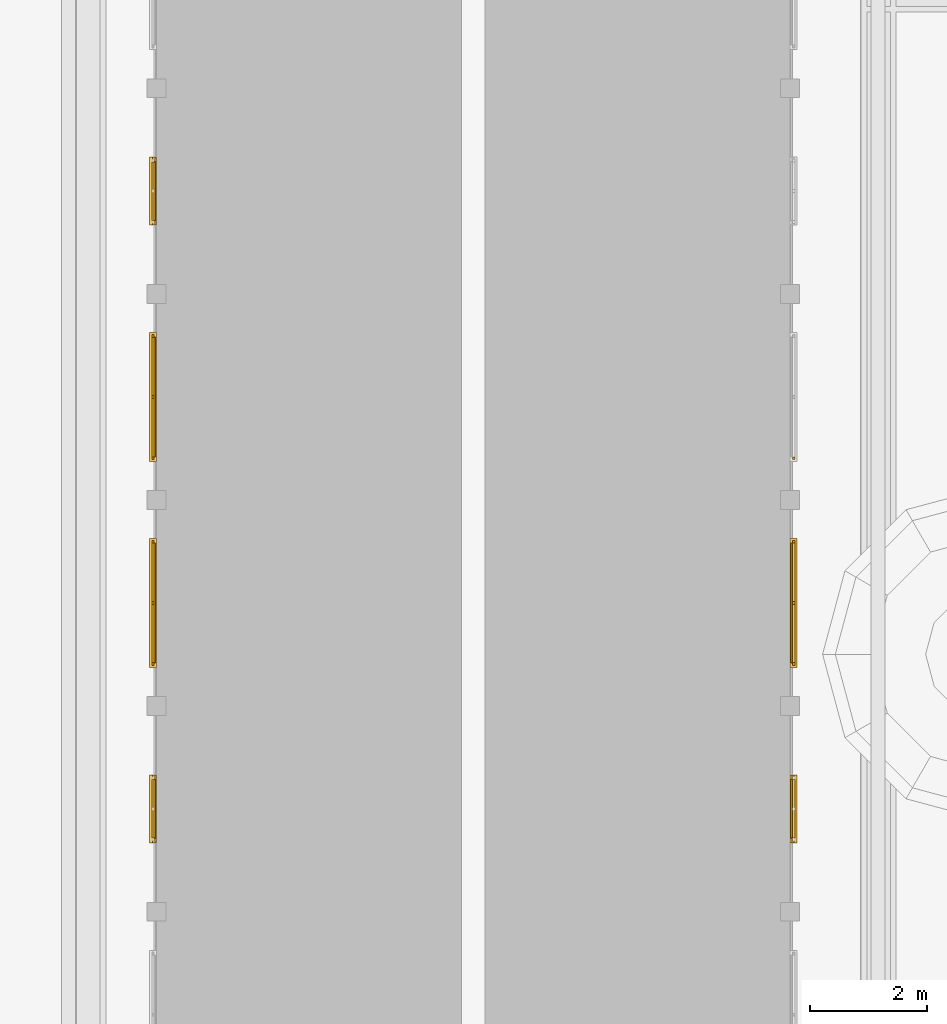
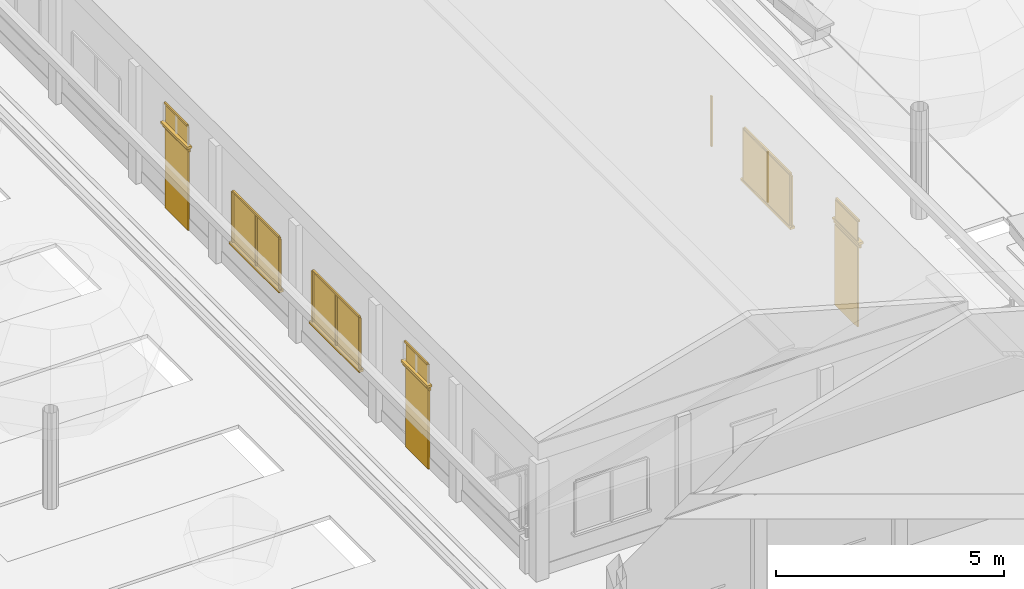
# One storey, part 49 of 177: 28 windows, 6 doors.
"""IFC4 building model written with IfcOpenShell, lengths in metres."""

from ifc_helpers import new_model, si_unit, origin, origin_with_axes, place, context, subcontext, project, spatial, triangles, element, save


model = new_model("IFC4")

# Units and contexts
model_context = context("Model", 3, precision=1e-05, world=origin_with_axes())
body_context = subcontext(model_context, "Body", "Model", "MODEL_VIEW")
ifc_project = project(units=[si_unit("LENGTHUNIT", "METRE"), si_unit("AREAUNIT", "SQUARE_METRE"), si_unit("VOLUMEUNIT", "CUBIC_METRE"), si_unit("PLANEANGLEUNIT", "RADIAN")], contexts=[model_context])

# Site, building, storey
site_placement = place(None, origin_with_axes())
site = spatial("IfcSite", under=ifc_project, at=site_placement, Name="Predio Los Mangos - Morales, San Martín", CompositionType="ELEMENT")
building_placement = place(site_placement, origin())
building = spatial("IfcBuilding", under=site, at=building_placement, Name="Hogar de Refugio Temporal", CompositionType="ELEMENT")
storey_placement = place(building_placement, origin())
storey = spatial("IfcBuildingStorey", under=building, at=storey_placement, Name="NIVEL 1 (NPT +0.00)", CompositionType="ELEMENT", Elevation=0.0)

# Doors
door_1_placement = place(storey_placement, origin())
element("IfcDoor", 1, at=door_1_placement, inside=storey, Name="E-04_p1", ObjectType="Puerta", PredefinedType="DOOR", context=body_context, shape_type="Tessellation", body=[
    triangles([(13.75, 56.865, 0.15), (13.79, 56.865, 0.15), (13.79, 57.865, 0.15), (13.75, 57.865, 0.15), (13.75, 56.865, 2.3), (13.79, 56.865, 2.3), (13.79, 57.865, 2.3), (13.75, 57.865, 2.3)], [[1, 4, 3], [1, 3, 2], [5, 6, 7], [5, 7, 8], [1, 2, 6], [1, 6, 5], [2, 3, 7], [2, 7, 6], [3, 4, 8], [3, 8, 7], [4, 1, 5], [4, 5, 8]]),
])
door_2_placement = place(storey_placement, origin())
element("IfcDoor", 2, at=door_2_placement, inside=storey, Name="E-04_p1_marco", ObjectType="Puerta", PredefinedType="DOOR", context=body_context, shape_type="Tessellation", body=[
    triangles([(13.73, 56.785, 2.3), (13.77, 56.785, 2.3), (13.77, 57.945, 2.3), (13.73, 57.945, 2.3), (13.73, 56.785, 2.38), (13.77, 56.785, 2.38), (13.77, 57.945, 2.38), (13.73, 57.945, 2.38)], [[1, 4, 3], [1, 3, 2], [5, 6, 7], [5, 7, 8], [1, 2, 6], [1, 6, 5], [2, 3, 7], [2, 7, 6], [3, 4, 8], [3, 8, 7], [4, 1, 5], [4, 5, 8]]),
])

# Windows
window_1_placement = place(storey_placement, origin())
element("IfcWindow", 3, at=window_1_placement, inside=storey, Name="E-04_vt1_vid", ObjectType="Ventana", PredefinedType="WINDOW", context=body_context, shape_type="Tessellation", body=[
    triangles([(13.76, 56.865, 2.45), (13.78, 56.865, 2.45), (13.78, 57.865, 2.45), (13.76, 57.865, 2.45), (13.76, 56.865, 2.95), (13.78, 56.865, 2.95), (13.78, 57.865, 2.95), (13.76, 57.865, 2.95)], [[1, 4, 3], [1, 3, 2], [5, 6, 7], [5, 7, 8], [1, 2, 6], [1, 6, 5], [2, 3, 7], [2, 7, 6], [3, 4, 8], [3, 8, 7], [4, 1, 5], [4, 5, 8]]),
])
window_2_placement = place(storey_placement, origin())
element("IfcWindow", 4, at=window_2_placement, inside=storey, Name="E-04_vt1_m", ObjectType="Ventana", PredefinedType="WINDOW", context=body_context, shape_type="Tessellation", body=[
    triangles([(13.72, 56.865, 2.95), (13.76, 56.865, 2.95), (13.76, 57.865, 2.95), (13.72, 57.865, 2.95), (13.72, 56.865, 3.0), (13.76, 56.865, 3.0), (13.76, 57.865, 3.0), (13.72, 57.865, 3.0)], [[1, 4, 3], [1, 3, 2], [5, 6, 7], [5, 7, 8], [1, 2, 6], [1, 6, 5], [2, 3, 7], [2, 7, 6], [3, 4, 8], [3, 8, 7], [4, 1, 5], [4, 5, 8]]),
])
window_3_placement = place(storey_placement, origin())
element("IfcWindow", 5, at=window_3_placement, inside=storey, Name="E-04_vt1_alf", ObjectType="Ventana", PredefinedType="WINDOW", context=body_context, shape_type="Tessellation", body=[
    triangles([(13.8, 56.785, 2.39), (13.68, 56.785, 2.39), (13.68, 57.945, 2.39), (13.8, 57.945, 2.39), (13.8, 56.785, 2.45), (13.68, 56.785, 2.45), (13.68, 57.945, 2.45), (13.8, 57.945, 2.45)], [[1, 4, 3], [1, 3, 2], [5, 6, 7], [5, 7, 8], [1, 2, 6], [1, 6, 5], [2, 3, 7], [2, 7, 6], [3, 4, 8], [3, 8, 7], [4, 1, 5], [4, 5, 8]]),
])
window_4_placement = place(storey_placement, origin())
element("IfcWindow", 6, at=window_4_placement, inside=storey, Name="E-04_v2_vid", ObjectType="Ventana", PredefinedType="WINDOW", context=body_context, shape_type="Tessellation", body=[
    triangles([(13.76, 59.8571, 1.05), (13.78, 59.8571, 1.05), (13.78, 61.8929, 1.05), (13.76, 61.8929, 1.05), (13.76, 59.8571, 2.4), (13.78, 59.8571, 2.4), (13.78, 61.8929, 2.4), (13.76, 61.8929, 2.4)], [[1, 4, 3], [1, 3, 2], [5, 6, 7], [5, 7, 8], [1, 2, 6], [1, 6, 5], [2, 3, 7], [2, 7, 6], [3, 4, 8], [3, 8, 7], [4, 1, 5], [4, 5, 8]]),
])
window_5_placement = place(storey_placement, origin())
element("IfcWindow", 7, at=window_5_placement, inside=storey, Name="E-04_v2_m", ObjectType="Ventana", PredefinedType="WINDOW", context=body_context, shape_type="Tessellation", body=[
    triangles([(13.72, 59.8071, 1.05), (13.76, 59.8071, 1.05), (13.76, 59.8571, 1.05), (13.72, 59.8571, 1.05), (13.72, 59.8071, 2.4), (13.76, 59.8071, 2.4), (13.76, 59.8571, 2.4), (13.72, 59.8571, 2.4)], [[1, 4, 3], [1, 3, 2], [5, 6, 7], [5, 7, 8], [1, 2, 6], [1, 6, 5], [2, 3, 7], [2, 7, 6], [3, 4, 8], [3, 8, 7], [4, 1, 5], [4, 5, 8]]),
])
window_6_placement = place(storey_placement, origin())
element("IfcWindow", 8, at=window_6_placement, inside=storey, Name="E-04_v2_m", ObjectType="Ventana", PredefinedType="WINDOW", context=body_context, shape_type="Tessellation", body=[
    triangles([(13.72, 61.8929, 1.05), (13.76, 61.8929, 1.05), (13.76, 61.9429, 1.05), (13.72, 61.9429, 1.05), (13.72, 61.8929, 2.4), (13.76, 61.8929, 2.4), (13.76, 61.9429, 2.4), (13.72, 61.9429, 2.4)], [[1, 4, 3], [1, 3, 2], [5, 6, 7], [5, 7, 8], [1, 2, 6], [1, 6, 5], [2, 3, 7], [2, 7, 6], [3, 4, 8], [3, 8, 7], [4, 1, 5], [4, 5, 8]]),
])
window_7_placement = place(storey_placement, origin())
element("IfcWindow", 9, at=window_7_placement, inside=storey, Name="E-04_v2_m", ObjectType="Ventana", PredefinedType="WINDOW", context=body_context, shape_type="Tessellation", body=[
    triangles([(13.72, 59.8571, 2.4), (13.76, 59.8571, 2.4), (13.76, 61.8929, 2.4), (13.72, 61.8929, 2.4), (13.72, 59.8571, 2.45), (13.76, 59.8571, 2.45), (13.76, 61.8929, 2.45), (13.72, 61.8929, 2.45)], [[1, 4, 3], [1, 3, 2], [5, 6, 7], [5, 7, 8], [1, 2, 6], [1, 6, 5], [2, 3, 7], [2, 7, 6], [3, 4, 8], [3, 8, 7], [4, 1, 5], [4, 5, 8]]),
])
window_8_placement = place(storey_placement, origin())
element("IfcWindow", 10, at=window_8_placement, inside=storey, Name="E-04_v2_m", ObjectType="Ventana", PredefinedType="WINDOW", context=body_context, shape_type="Tessellation", body=[
    triangles([(13.72, 60.85, 1.05), (13.76, 60.85, 1.05), (13.76, 60.9, 1.05), (13.72, 60.9, 1.05), (13.72, 60.85, 2.4), (13.76, 60.85, 2.4), (13.76, 60.9, 2.4), (13.72, 60.9, 2.4)], [[1, 4, 3], [1, 3, 2], [5, 6, 7], [5, 7, 8], [1, 2, 6], [1, 6, 5], [2, 3, 7], [2, 7, 6], [3, 4, 8], [3, 8, 7], [4, 1, 5], [4, 5, 8]]),
])
window_9_placement = place(storey_placement, origin())
element("IfcWindow", 11, at=window_9_placement, inside=storey, Name="E-04_v2_alf", ObjectType="Ventana", PredefinedType="WINDOW", context=body_context, shape_type="Tessellation", body=[
    triangles([(13.8, 59.7771, 0.99), (13.68, 59.7771, 0.99), (13.68, 61.9729, 0.99), (13.8, 61.9729, 0.99), (13.8, 59.7771, 1.05), (13.68, 59.7771, 1.05), (13.68, 61.9729, 1.05), (13.8, 61.9729, 1.05)], [[1, 4, 3], [1, 3, 2], [5, 6, 7], [5, 7, 8], [1, 2, 6], [1, 6, 5], [2, 3, 7], [2, 7, 6], [3, 4, 8], [3, 8, 7], [4, 1, 5], [4, 5, 8]]),
])
window_10_placement = place(storey_placement, origin())
element("IfcWindow", 12, at=window_10_placement, inside=storey, Name="E-04_v3_vid", ObjectType="Ventana", PredefinedType="WINDOW", context=body_context, shape_type="Tessellation", body=[
    triangles([(13.76, 63.3671, 1.05), (13.78, 63.3671, 1.05), (13.78, 65.4029, 1.05), (13.76, 65.4029, 1.05), (13.76, 63.3671, 2.4), (13.78, 63.3671, 2.4), (13.78, 65.4029, 2.4), (13.76, 65.4029, 2.4)], [[1, 4, 3], [1, 3, 2], [5, 6, 7], [5, 7, 8], [1, 2, 6], [1, 6, 5], [2, 3, 7], [2, 7, 6], [3, 4, 8], [3, 8, 7], [4, 1, 5], [4, 5, 8]]),
])
window_11_placement = place(storey_placement, origin())
element("IfcWindow", 13, at=window_11_placement, inside=storey, Name="E-04_v3_m", ObjectType="Ventana", PredefinedType="WINDOW", context=body_context, shape_type="Tessellation", body=[
    triangles([(13.72, 63.3171, 1.05), (13.76, 63.3171, 1.05), (13.76, 63.3671, 1.05), (13.72, 63.3671, 1.05), (13.72, 63.3171, 2.4), (13.76, 63.3171, 2.4), (13.76, 63.3671, 2.4), (13.72, 63.3671, 2.4)], [[1, 4, 3], [1, 3, 2], [5, 6, 7], [5, 7, 8], [1, 2, 6], [1, 6, 5], [2, 3, 7], [2, 7, 6], [3, 4, 8], [3, 8, 7], [4, 1, 5], [4, 5, 8]]),
])
window_12_placement = place(storey_placement, origin())
element("IfcWindow", 14, at=window_12_placement, inside=storey, Name="E-04_v3_m", ObjectType="Ventana", PredefinedType="WINDOW", context=body_context, shape_type="Tessellation", body=[
    triangles([(13.72, 65.4029, 1.05), (13.76, 65.4029, 1.05), (13.76, 65.4529, 1.05), (13.72, 65.4529, 1.05), (13.72, 65.4029, 2.4), (13.76, 65.4029, 2.4), (13.76, 65.4529, 2.4), (13.72, 65.4529, 2.4)], [[1, 4, 3], [1, 3, 2], [5, 6, 7], [5, 7, 8], [1, 2, 6], [1, 6, 5], [2, 3, 7], [2, 7, 6], [3, 4, 8], [3, 8, 7], [4, 1, 5], [4, 5, 8]]),
])
window_13_placement = place(storey_placement, origin())
element("IfcWindow", 15, at=window_13_placement, inside=storey, Name="E-04_v3_m", ObjectType="Ventana", PredefinedType="WINDOW", context=body_context, shape_type="Tessellation", body=[
    triangles([(13.72, 63.3671, 2.4), (13.76, 63.3671, 2.4), (13.76, 65.4029, 2.4), (13.72, 65.4029, 2.4), (13.72, 63.3671, 2.45), (13.76, 63.3671, 2.45), (13.76, 65.4029, 2.45), (13.72, 65.4029, 2.45)], [[1, 4, 3], [1, 3, 2], [5, 6, 7], [5, 7, 8], [1, 2, 6], [1, 6, 5], [2, 3, 7], [2, 7, 6], [3, 4, 8], [3, 8, 7], [4, 1, 5], [4, 5, 8]]),
])
window_14_placement = place(storey_placement, origin())
element("IfcWindow", 16, at=window_14_placement, inside=storey, Name="E-04_v3_m", ObjectType="Ventana", PredefinedType="WINDOW", context=body_context, shape_type="Tessellation", body=[
    triangles([(13.72, 64.36, 1.05), (13.76, 64.36, 1.05), (13.76, 64.41, 1.05), (13.72, 64.41, 1.05), (13.72, 64.36, 2.4), (13.76, 64.36, 2.4), (13.76, 64.41, 2.4), (13.72, 64.41, 2.4)], [[1, 4, 3], [1, 3, 2], [5, 6, 7], [5, 7, 8], [1, 2, 6], [1, 6, 5], [2, 3, 7], [2, 7, 6], [3, 4, 8], [3, 8, 7], [4, 1, 5], [4, 5, 8]]),
])
window_15_placement = place(storey_placement, origin())
element("IfcWindow", 17, at=window_15_placement, inside=storey, Name="E-04_v3_alf", ObjectType="Ventana", PredefinedType="WINDOW", context=body_context, shape_type="Tessellation", body=[
    triangles([(13.8, 63.2871, 0.99), (13.68, 63.2871, 0.99), (13.68, 65.4829, 0.99), (13.8, 65.4829, 0.99), (13.8, 63.2871, 1.05), (13.68, 63.2871, 1.05), (13.68, 65.4829, 1.05), (13.8, 65.4829, 1.05)], [[1, 4, 3], [1, 3, 2], [5, 6, 7], [5, 7, 8], [1, 2, 6], [1, 6, 5], [2, 3, 7], [2, 7, 6], [3, 4, 8], [3, 8, 7], [4, 1, 5], [4, 5, 8]]),
])

# Doors
door_3_placement = place(storey_placement, origin())
element("IfcDoor", 18, at=door_3_placement, inside=storey, Name="E-04_p4", ObjectType="Puerta", PredefinedType="DOOR", context=body_context, shape_type="Tessellation", body=[
    triangles([(13.75, 67.395, 0.15), (13.79, 67.395, 0.15), (13.79, 68.395, 0.15), (13.75, 68.395, 0.15), (13.75, 67.395, 2.3), (13.79, 67.395, 2.3), (13.79, 68.395, 2.3), (13.75, 68.395, 2.3)], [[1, 4, 3], [1, 3, 2], [5, 6, 7], [5, 7, 8], [1, 2, 6], [1, 6, 5], [2, 3, 7], [2, 7, 6], [3, 4, 8], [3, 8, 7], [4, 1, 5], [4, 5, 8]]),
])
door_4_placement = place(storey_placement, origin())
element("IfcDoor", 19, at=door_4_placement, inside=storey, Name="E-04_p4_marco", ObjectType="Puerta", PredefinedType="DOOR", context=body_context, shape_type="Tessellation", body=[
    triangles([(13.73, 67.315, 2.3), (13.77, 67.315, 2.3), (13.77, 68.475, 2.3), (13.73, 68.475, 2.3), (13.73, 67.315, 2.38), (13.77, 67.315, 2.38), (13.77, 68.475, 2.38), (13.73, 68.475, 2.38)], [[1, 4, 3], [1, 3, 2], [5, 6, 7], [5, 7, 8], [1, 2, 6], [1, 6, 5], [2, 3, 7], [2, 7, 6], [3, 4, 8], [3, 8, 7], [4, 1, 5], [4, 5, 8]]),
])

# Windows
window_16_placement = place(storey_placement, origin())
element("IfcWindow", 20, at=window_16_placement, inside=storey, Name="E-04_vt4_vid", ObjectType="Ventana", PredefinedType="WINDOW", context=body_context, shape_type="Tessellation", body=[
    triangles([(13.76, 67.395, 2.45), (13.78, 67.395, 2.45), (13.78, 68.395, 2.45), (13.76, 68.395, 2.45), (13.76, 67.395, 2.95), (13.78, 67.395, 2.95), (13.78, 68.395, 2.95), (13.76, 68.395, 2.95)], [[1, 4, 3], [1, 3, 2], [5, 6, 7], [5, 7, 8], [1, 2, 6], [1, 6, 5], [2, 3, 7], [2, 7, 6], [3, 4, 8], [3, 8, 7], [4, 1, 5], [4, 5, 8]]),
])
window_17_placement = place(storey_placement, origin())
element("IfcWindow", 21, at=window_17_placement, inside=storey, Name="E-04_vt4_m", ObjectType="Ventana", PredefinedType="WINDOW", context=body_context, shape_type="Tessellation", body=[
    triangles([(13.72, 67.395, 2.95), (13.76, 67.395, 2.95), (13.76, 68.395, 2.95), (13.72, 68.395, 2.95), (13.72, 67.395, 3.0), (13.76, 67.395, 3.0), (13.76, 68.395, 3.0), (13.72, 68.395, 3.0)], [[1, 4, 3], [1, 3, 2], [5, 6, 7], [5, 7, 8], [1, 2, 6], [1, 6, 5], [2, 3, 7], [2, 7, 6], [3, 4, 8], [3, 8, 7], [4, 1, 5], [4, 5, 8]]),
])
window_18_placement = place(storey_placement, origin())
element("IfcWindow", 22, at=window_18_placement, inside=storey, Name="E-04_vt4_alf", ObjectType="Ventana", PredefinedType="WINDOW", context=body_context, shape_type="Tessellation", body=[
    triangles([(13.8, 67.315, 2.39), (13.68, 67.315, 2.39), (13.68, 68.475, 2.39), (13.8, 68.475, 2.39), (13.8, 67.315, 2.45), (13.68, 67.315, 2.45), (13.68, 68.475, 2.45), (13.8, 68.475, 2.45)], [[1, 4, 3], [1, 3, 2], [5, 6, 7], [5, 7, 8], [1, 2, 6], [1, 6, 5], [2, 3, 7], [2, 7, 6], [3, 4, 8], [3, 8, 7], [4, 1, 5], [4, 5, 8]]),
])

# Doors
door_5_placement = place(storey_placement, origin())
element("IfcDoor", 23, at=door_5_placement, inside=storey, Name="E-04_p1", ObjectType="Puerta", PredefinedType="DOOR", context=body_context, shape_type="Tessellation", body=[
    triangles([(24.61, 56.865, 0.15), (24.65, 56.865, 0.15), (24.65, 57.865, 0.15), (24.61, 57.865, 0.15), (24.61, 56.865, 2.3), (24.65, 56.865, 2.3), (24.65, 57.865, 2.3), (24.61, 57.865, 2.3)], [[1, 4, 3], [1, 3, 2], [5, 6, 7], [5, 7, 8], [1, 2, 6], [1, 6, 5], [2, 3, 7], [2, 7, 6], [3, 4, 8], [3, 8, 7], [4, 1, 5], [4, 5, 8]]),
])
door_6_placement = place(storey_placement, origin())
element("IfcDoor", 24, at=door_6_placement, inside=storey, Name="E-04_p1_marco", ObjectType="Puerta", PredefinedType="DOOR", context=body_context, shape_type="Tessellation", body=[
    triangles([(24.63, 56.785, 2.3), (24.67, 56.785, 2.3), (24.67, 57.945, 2.3), (24.63, 57.945, 2.3), (24.63, 56.785, 2.38), (24.67, 56.785, 2.38), (24.67, 57.945, 2.38), (24.63, 57.945, 2.38)], [[1, 4, 3], [1, 3, 2], [5, 6, 7], [5, 7, 8], [1, 2, 6], [1, 6, 5], [2, 3, 7], [2, 7, 6], [3, 4, 8], [3, 8, 7], [4, 1, 5], [4, 5, 8]]),
])

# Windows
window_19_placement = place(storey_placement, origin())
element("IfcWindow", 25, at=window_19_placement, inside=storey, Name="E-04_vt1_vid", ObjectType="Ventana", PredefinedType="WINDOW", context=body_context, shape_type="Tessellation", body=[
    triangles([(24.62, 56.865, 2.45), (24.64, 56.865, 2.45), (24.64, 57.865, 2.45), (24.62, 57.865, 2.45), (24.62, 56.865, 2.95), (24.64, 56.865, 2.95), (24.64, 57.865, 2.95), (24.62, 57.865, 2.95)], [[1, 4, 3], [1, 3, 2], [5, 6, 7], [5, 7, 8], [1, 2, 6], [1, 6, 5], [2, 3, 7], [2, 7, 6], [3, 4, 8], [3, 8, 7], [4, 1, 5], [4, 5, 8]]),
])
window_20_placement = place(storey_placement, origin())
element("IfcWindow", 26, at=window_20_placement, inside=storey, Name="E-04_vt1_m", ObjectType="Ventana", PredefinedType="WINDOW", context=body_context, shape_type="Tessellation", body=[
    triangles([(24.64, 56.865, 2.95), (24.68, 56.865, 2.95), (24.68, 57.865, 2.95), (24.64, 57.865, 2.95), (24.64, 56.865, 3.0), (24.68, 56.865, 3.0), (24.68, 57.865, 3.0), (24.64, 57.865, 3.0)], [[1, 4, 3], [1, 3, 2], [5, 6, 7], [5, 7, 8], [1, 2, 6], [1, 6, 5], [2, 3, 7], [2, 7, 6], [3, 4, 8], [3, 8, 7], [4, 1, 5], [4, 5, 8]]),
])
window_21_placement = place(storey_placement, origin())
element("IfcWindow", 27, at=window_21_placement, inside=storey, Name="E-04_vt1_alf", ObjectType="Ventana", PredefinedType="WINDOW", context=body_context, shape_type="Tessellation", body=[
    triangles([(24.6, 56.785, 2.39), (24.72, 56.785, 2.39), (24.72, 57.945, 2.39), (24.6, 57.945, 2.39), (24.6, 56.785, 2.45), (24.72, 56.785, 2.45), (24.72, 57.945, 2.45), (24.6, 57.945, 2.45)], [[1, 4, 3], [1, 3, 2], [5, 6, 7], [5, 7, 8], [1, 2, 6], [1, 6, 5], [2, 3, 7], [2, 7, 6], [3, 4, 8], [3, 8, 7], [4, 1, 5], [4, 5, 8]]),
])
window_22_placement = place(storey_placement, origin())
element("IfcWindow", 28, at=window_22_placement, inside=storey, Name="E-04_v2_vid", ObjectType="Ventana", PredefinedType="WINDOW", context=body_context, shape_type="Tessellation", body=[
    triangles([(24.62, 59.8571, 1.05), (24.64, 59.8571, 1.05), (24.64, 61.8929, 1.05), (24.62, 61.8929, 1.05), (24.62, 59.8571, 2.4), (24.64, 59.8571, 2.4), (24.64, 61.8929, 2.4), (24.62, 61.8929, 2.4)], [[1, 4, 3], [1, 3, 2], [5, 6, 7], [5, 7, 8], [1, 2, 6], [1, 6, 5], [2, 3, 7], [2, 7, 6], [3, 4, 8], [3, 8, 7], [4, 1, 5], [4, 5, 8]]),
])
window_23_placement = place(storey_placement, origin())
element("IfcWindow", 29, at=window_23_placement, inside=storey, Name="E-04_v2_m", ObjectType="Ventana", PredefinedType="WINDOW", context=body_context, shape_type="Tessellation", body=[
    triangles([(24.64, 59.8071, 1.05), (24.68, 59.8071, 1.05), (24.68, 59.8571, 1.05), (24.64, 59.8571, 1.05), (24.64, 59.8071, 2.4), (24.68, 59.8071, 2.4), (24.68, 59.8571, 2.4), (24.64, 59.8571, 2.4)], [[1, 4, 3], [1, 3, 2], [5, 6, 7], [5, 7, 8], [1, 2, 6], [1, 6, 5], [2, 3, 7], [2, 7, 6], [3, 4, 8], [3, 8, 7], [4, 1, 5], [4, 5, 8]]),
])
window_24_placement = place(storey_placement, origin())
element("IfcWindow", 30, at=window_24_placement, inside=storey, Name="E-04_v2_m", ObjectType="Ventana", PredefinedType="WINDOW", context=body_context, shape_type="Tessellation", body=[
    triangles([(24.64, 61.8929, 1.05), (24.68, 61.8929, 1.05), (24.68, 61.9429, 1.05), (24.64, 61.9429, 1.05), (24.64, 61.8929, 2.4), (24.68, 61.8929, 2.4), (24.68, 61.9429, 2.4), (24.64, 61.9429, 2.4)], [[1, 4, 3], [1, 3, 2], [5, 6, 7], [5, 7, 8], [1, 2, 6], [1, 6, 5], [2, 3, 7], [2, 7, 6], [3, 4, 8], [3, 8, 7], [4, 1, 5], [4, 5, 8]]),
])
window_25_placement = place(storey_placement, origin())
element("IfcWindow", 31, at=window_25_placement, inside=storey, Name="E-04_v2_m", ObjectType="Ventana", PredefinedType="WINDOW", context=body_context, shape_type="Tessellation", body=[
    triangles([(24.64, 59.8571, 2.4), (24.68, 59.8571, 2.4), (24.68, 61.8929, 2.4), (24.64, 61.8929, 2.4), (24.64, 59.8571, 2.45), (24.68, 59.8571, 2.45), (24.68, 61.8929, 2.45), (24.64, 61.8929, 2.45)], [[1, 4, 3], [1, 3, 2], [5, 6, 7], [5, 7, 8], [1, 2, 6], [1, 6, 5], [2, 3, 7], [2, 7, 6], [3, 4, 8], [3, 8, 7], [4, 1, 5], [4, 5, 8]]),
])
window_26_placement = place(storey_placement, origin())
element("IfcWindow", 32, at=window_26_placement, inside=storey, Name="E-04_v2_m", ObjectType="Ventana", PredefinedType="WINDOW", context=body_context, shape_type="Tessellation", body=[
    triangles([(24.64, 60.85, 1.05), (24.68, 60.85, 1.05), (24.68, 60.9, 1.05), (24.64, 60.9, 1.05), (24.64, 60.85, 2.4), (24.68, 60.85, 2.4), (24.68, 60.9, 2.4), (24.64, 60.9, 2.4)], [[1, 4, 3], [1, 3, 2], [5, 6, 7], [5, 7, 8], [1, 2, 6], [1, 6, 5], [2, 3, 7], [2, 7, 6], [3, 4, 8], [3, 8, 7], [4, 1, 5], [4, 5, 8]]),
])
window_27_placement = place(storey_placement, origin())
element("IfcWindow", 33, at=window_27_placement, inside=storey, Name="E-04_v2_alf", ObjectType="Ventana", PredefinedType="WINDOW", context=body_context, shape_type="Tessellation", body=[
    triangles([(24.6, 59.7771, 0.99), (24.72, 59.7771, 0.99), (24.72, 61.9729, 0.99), (24.6, 61.9729, 0.99), (24.6, 59.7771, 1.05), (24.72, 59.7771, 1.05), (24.72, 61.9729, 1.05), (24.6, 61.9729, 1.05)], [[1, 4, 3], [1, 3, 2], [5, 6, 7], [5, 7, 8], [1, 2, 6], [1, 6, 5], [2, 3, 7], [2, 7, 6], [3, 4, 8], [3, 8, 7], [4, 1, 5], [4, 5, 8]]),
])
window_28_placement = place(storey_placement, origin())
element("IfcWindow", 34, at=window_28_placement, inside=storey, Name="E-04_v3_m", ObjectType="Ventana", PredefinedType="WINDOW", context=body_context, shape_type="Tessellation", body=[
    triangles([(24.64, 63.3171, 1.05), (24.68, 63.3171, 1.05), (24.68, 63.3671, 1.05), (24.64, 63.3671, 1.05), (24.64, 63.3171, 2.4), (24.68, 63.3171, 2.4), (24.68, 63.3671, 2.4), (24.64, 63.3671, 2.4)], [[1, 4, 3], [1, 3, 2], [5, 6, 7], [5, 7, 8], [1, 2, 6], [1, 6, 5], [2, 3, 7], [2, 7, 6], [3, 4, 8], [3, 8, 7], [4, 1, 5], [4, 5, 8]]),
])

save(model, "model.ifc")
